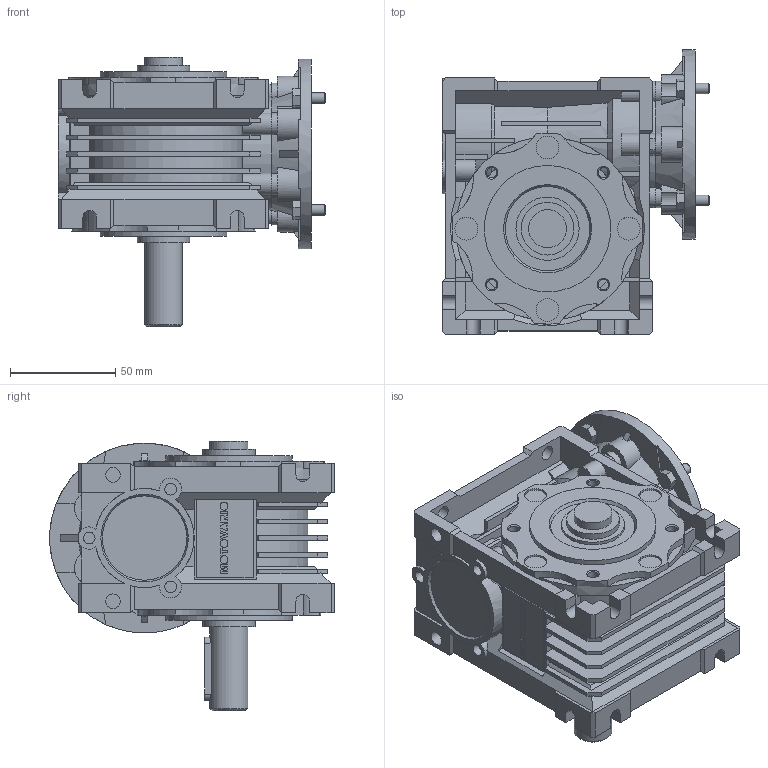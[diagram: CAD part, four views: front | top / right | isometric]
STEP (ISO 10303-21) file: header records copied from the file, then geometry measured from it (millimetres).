
FILE_DESCRIPTION(/* description */ ('STEP AP203'),/* implementation_level */ '2;1');
FILE_NAME(/* name */ 'NMRV0401271811112300NO---_---------------',/* time_stamp */ '2025-12-03T08:32:28+01:00',/* author */ ('License CC BY-ND 4.0'),/* organization */ ('CADENAS'),/* preprocessor_version */ 'ST-DEVELOPER v20',/* originating_system */ 'PARTsolutions',/* authorisation */ ' ');
FILE_SCHEMA (('CONFIG_CONTROL_DESIGN'));
Length unit declared in the file: millimetre
Products named in the file (6): NMRV0401271811112300NO---(---------------); Gear unit 40; 040-18 (78)alc-n; AL 040-18(1-2); VB 040-11 (11); 40-63 B14
Assembly tree (5 placements, depth 2):
  NMRV0401271811112300NO---(---------------)
    Gear unit 40
    040-18 (78)alc-n
    AL 040-18(1-2)
    VB 040-11 (11)
    40-63 B14
Bounding box: 127 x 135 x 128 mm (x, y, z)
Volume: 700627.8 mm3; surface area: 170152.5 mm2
Topology: 5 solids, 5 shells, 905 faces, 2471 edges, 1614 vertices
Faces by surface type: plane 618, cylinder 212, cone 73, torus 2
Full cylindrical faces by diameter (mm): 4.917 x9, 5 x4, 5.55 x3, 6.05 x4, 6.4 x1, 7 x6, 10 x6, 10.8 x4, 16 x1, 18 x3, 23 x2, 25 x2, 28 x1, 30 x2, 35 x1, 36 x1, 40 x1, 47 x1, 60 x2, 75 x1, 90 x1
Entity records: 28353 total; most frequent: CARTESIAN_POINT 5570, ORIENTED_EDGE 4722, DIRECTION 4642, EDGE_CURVE 2361, VERTEX_POINT 1589, AXIS2_PLACEMENT_3D 1588, LINE 1466, VECTOR 1466
